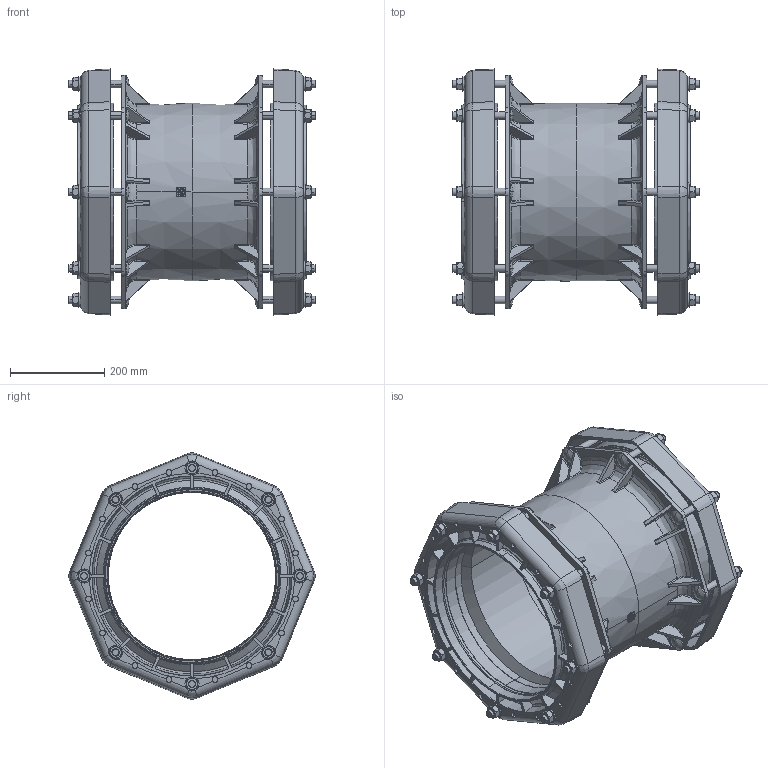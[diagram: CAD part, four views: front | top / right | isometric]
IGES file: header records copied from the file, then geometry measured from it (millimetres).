
Global section: file name: No Iges File Name specified; native system: AutoDesk Inventor R12.0; preprocessor: AutoDesk Inventor Iges Exporter R12.0; date: 20120502.094318; units: millimetre
Bounding box: 524 x 521.76 x 521.76 mm (x, y, z)
Volume: 8524930 mm3; surface area: 2356199.7 mm2
Topology: 1 solids, 1 shells, 2176 faces, 6093 edges, 3904 vertices
Faces by surface type: plane 677, bspline 464, revolution 391, cone 353, cylinder 231, torus 60
